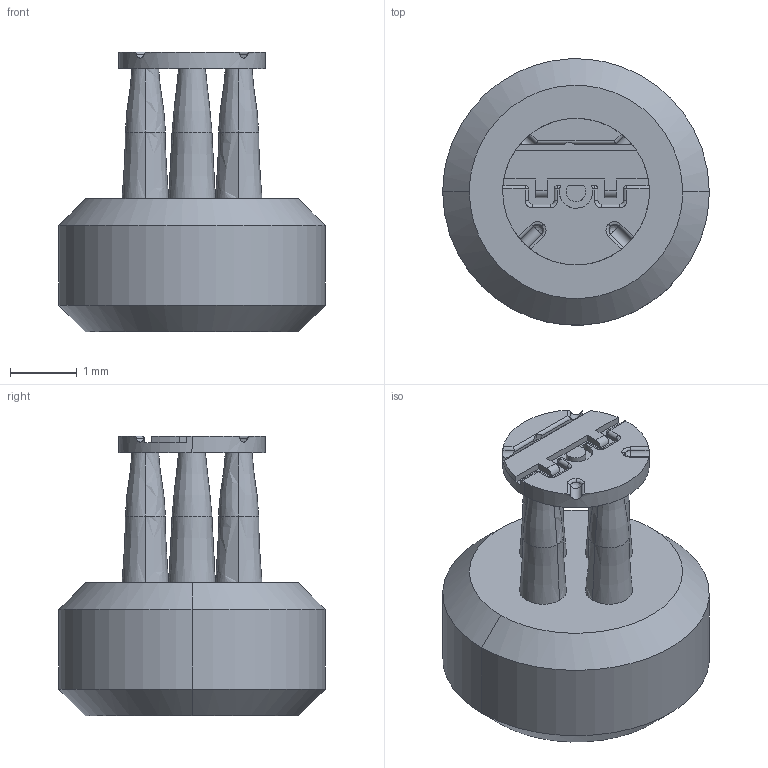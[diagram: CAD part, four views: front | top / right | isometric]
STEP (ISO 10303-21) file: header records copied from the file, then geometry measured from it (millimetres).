
FILE_DESCRIPTION(/* description */ (''),/* implementation_level */ '2;1');
FILE_NAME(/* name */ 'USFUEL~1',/* time_stamp */ '2021-04-27T21:58:51+02:00',/* author */ (''),/* organization */ (''),/* preprocessor_version */ 'ST-DEVELOPER v16.5',/* originating_system */ '',/* authorisation */ '');
FILE_SCHEMA (('CONFIG_CONTROL_DESIGN'));
Length unit declared in the file: millimetre
Products named in the file (1): Document
Bounding box: 4 x 4 x 4.2 mm (x, y, z)
Volume: 26.2 mm3; surface area: 66.3 mm2
Topology: 1 solids, 1 shells, 108 faces, 269 edges, 166 vertices
Faces by surface type: cylinder 44, bspline 34, plane 30
Entity records: 3644 total; most frequent: CARTESIAN_POINT 1901, ORIENTED_EDGE 538, EDGE_CURVE 269, VERTEX_POINT 166, EDGE_LOOP 117, B_SPLINE_CURVE_WITH_KNOTS 117, ADVANCED_FACE 108, FACE_OUTER_BOUND 108
